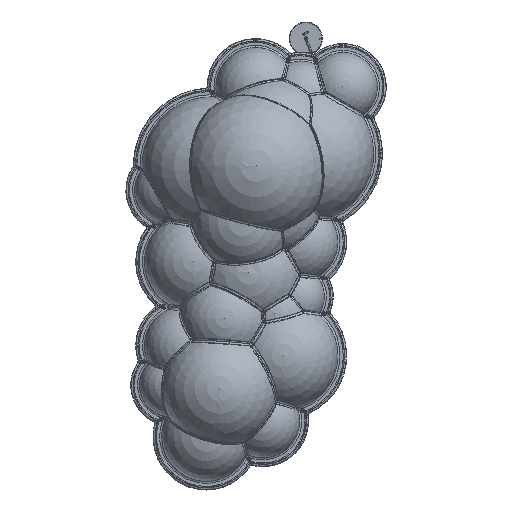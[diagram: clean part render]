
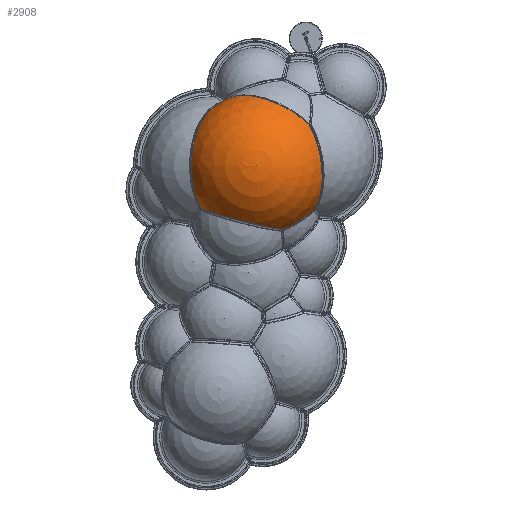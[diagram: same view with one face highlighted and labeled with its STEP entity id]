
A CAD part, front view. The second image highlights one B-rep face of the part: STEP entity #2908.
In plain terms, the highlighted spherical face has radius 241.605 mm.
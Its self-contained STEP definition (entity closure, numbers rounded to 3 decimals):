
#560 = AXIS2_PLACEMENT_3D ( 'NONE', #79159, #28120, #87640 ) ;
#1743 = VERTEX_POINT ( 'NONE', #97933 ) ;
#2908 = ADVANCED_FACE ( 'NONE', ( #61104 ), #83724, .T. ) ;
#10722 = CIRCLE ( 'NONE', #58684, 241.605 ) ;
#13697 = EDGE_CURVE ( 'NONE', #101439, #93265, #100255, .T. ) ;
#15763 = ORIENTED_EDGE ( 'NONE', *, *, #39415, .T. ) ;
#15855 = DIRECTION ( 'NONE',  ( 0., 1., 0. ) ) ;
#18824 = DIRECTION ( 'NONE',  ( 0., -1., 0. ) ) ;
#20287 = DIRECTION ( 'NONE',  ( 0.246, -0.1, 0.964 ) ) ;
#21527 = CARTESIAN_POINT ( 'NONE',  ( -59.412, -116.414, 393.749 ) ) ;
#22596 = ORIENTED_EDGE ( 'NONE', *, *, #48601, .T. ) ;
#23401 = CIRCLE ( 'NONE', #34869, 216.661 ) ;
#26802 = VERTEX_POINT ( 'NONE', #33884 ) ;
#28120 = DIRECTION ( 'NONE',  ( -0.438, -0.52, -0.733 ) ) ;
#28325 = DIRECTION ( 'NONE',  ( -0.357, -0.339, 0.87 ) ) ;
#33545 = ORIENTED_EDGE ( 'NONE', *, *, #90997, .T. ) ;
#33578 = AXIS2_PLACEMENT_3D ( 'NONE', #79353, #28325, #87851 ) ;
#33884 = CARTESIAN_POINT ( 'NONE',  ( 218.825, -134.355, 21.419 ) ) ;
#34826 = CARTESIAN_POINT ( 'NONE',  ( -56.644, -51.094, 168.165 ) ) ;
#34869 = AXIS2_PLACEMENT_3D ( 'NONE', #34826, #94375, #43420 ) ;
#36342 = EDGE_LOOP ( 'NONE', ( #94826, #15763, #22596, #71188, #33545, #51571 ) ) ;
#39415 = EDGE_CURVE ( 'NONE', #49801, #62273, #23401, .T. ) ;
#43009 = EDGE_CURVE ( 'NONE', #49801, #93265, #10722, .T. ) ;
#43420 = DIRECTION ( 'NONE',  ( 0.611, 0.792, 0. ) ) ;
#48601 = EDGE_CURVE ( 'NONE', #62273, #1743, #72072, .T. ) ;
#49801 = VERTEX_POINT ( 'NONE', #100696 ) ;
#50636 = DIRECTION ( 'NONE',  ( -0.793, -0.576, -0.199 ) ) ;
#51571 = ORIENTED_EDGE ( 'NONE', *, *, #13697, .T. ) ;
#58684 = AXIS2_PLACEMENT_3D ( 'NONE', #66931, #15855, #75495 ) ;
#59004 = EDGE_CURVE ( 'NONE', #1743, #26802, #59034, .T. ) ;
#59034 = CIRCLE ( 'NONE', #33578, 149.107 ) ;
#61049 = CARTESIAN_POINT ( 'NONE',  ( -156.695, -181.483, 26.989 ) ) ;
#61104 = FACE_OUTER_BOUND ( 'NONE', #36342, .T. ) ;
#62273 = VERTEX_POINT ( 'NONE', #61049 ) ;
#66771 = AXIS2_PLACEMENT_3D ( 'NONE', #101610, #50636, #110182 ) ;
#66931 = CARTESIAN_POINT ( 'NONE',  ( 27.996, -116.414, 168.51 ) ) ;
#71188 = ORIENTED_EDGE ( 'NONE', *, *, #59004, .T. ) ;
#71275 = AXIS2_PLACEMENT_3D ( 'NONE', #71320, #20287, #79845 ) ;
#71320 = CARTESIAN_POINT ( 'NONE',  ( -15.216, -98.885, -0.602 ) ) ;
#72072 = CIRCLE ( 'NONE', #71275, 166.132 ) ;
#75495 = DIRECTION ( 'NONE',  ( 0., 0., 1. ) ) ;
#79159 = CARTESIAN_POINT ( 'NONE',  ( 83.561, -50.416, 261.554 ) ) ;
#79353 = CARTESIAN_POINT ( 'NONE',  ( 95.913, -51.963, 3.06 ) ) ;
#79736 = AXIS2_PLACEMENT_3D ( 'NONE', #95467, #18824, #104050 ) ;
#79845 = DIRECTION ( 'NONE',  ( 0.969, 0., -0.248 ) ) ;
#83724 = SPHERICAL_SURFACE ( 'NONE', #79736, 241.605 ) ;
#87640 = DIRECTION ( 'NONE',  ( 0., 0.816, -0.579 ) ) ;
#87851 = DIRECTION ( 'NONE',  ( 0.925, 0., 0.38 ) ) ;
#90997 = EDGE_CURVE ( 'NONE', #26802, #101439, #95864, .T. ) ;
#93265 = VERTEX_POINT ( 'NONE', #21527 ) ;
#94375 = DIRECTION ( 'NONE',  ( 0.792, -0.611, 0.003 ) ) ;
#94826 = ORIENTED_EDGE ( 'NONE', *, *, #43009, .F. ) ;
#95467 = CARTESIAN_POINT ( 'NONE',  ( 27.996, -116.414, 168.51 ) ) ;
#95864 = CIRCLE ( 'NONE', #66771, 214.253 ) ;
#97933 = CARTESIAN_POINT ( 'NONE',  ( 115.297, -192.238, -43.628 ) ) ;
#100255 = CIRCLE ( 'NONE', #560, 205.603 ) ;
#100696 = CARTESIAN_POINT ( 'NONE',  ( -107.869, -116.414, 368.293 ) ) ;
#101439 = VERTEX_POINT ( 'NONE', #108693 ) ;
#101610 = CARTESIAN_POINT ( 'NONE',  ( 116.546, -52.136, 190.781 ) ) ;
#104050 = DIRECTION ( 'NONE',  ( -1., 0., 0. ) ) ;
#108693 = CARTESIAN_POINT ( 'NONE',  ( 203.836, -211.65, 304.096 ) ) ;
#110182 = DIRECTION ( 'NONE',  ( 0.587, -0.809, 0. ) ) ;
